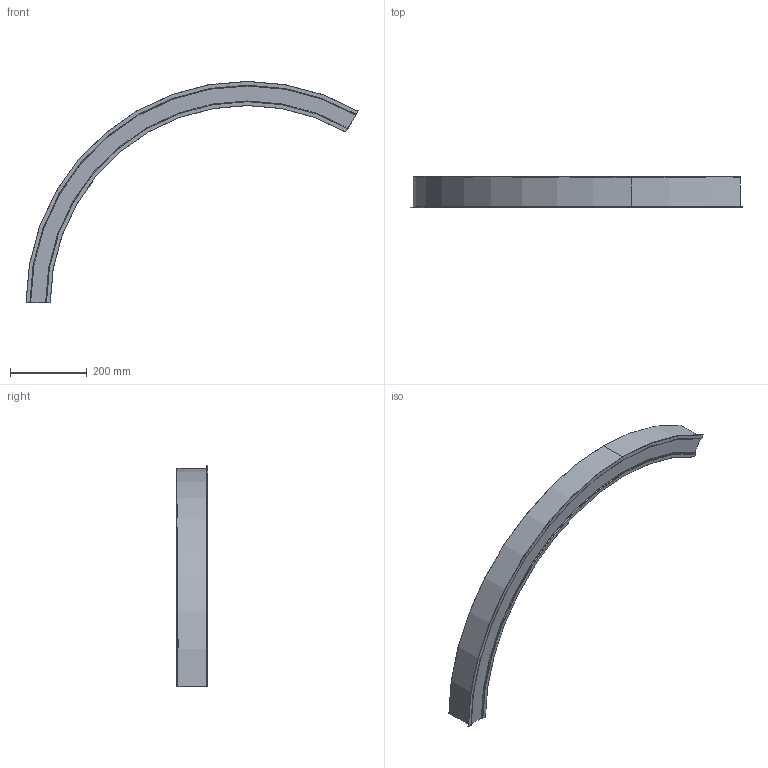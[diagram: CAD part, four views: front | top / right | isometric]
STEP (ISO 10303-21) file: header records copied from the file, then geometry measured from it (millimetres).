
FILE_DESCRIPTION (( 'STEP AP203' ), '1' );
FILE_NAME ('mLight_Swerve 47 Recessed_R543.75 mm 120 deg.STEP', '2020-04-01T10:10:33', ( '' ), ( '' ), 'SwSTEP 2.0', 'SolidWorks 2017', '' );
FILE_SCHEMA (( 'CONFIG_CONTROL_DESIGN' ));
Length unit declared in the file: millimetre
Products named in the file (1): mLight_Swerve 47 Recessed_R543.75 mm 120 deg
Bounding box: 862.88 x 80.63 x 575.25 mm (x, y, z)
Volume: 4135090.8 mm3; surface area: 358034.2 mm2
Topology: 1 solids, 1 shells, 93 faces, 247 edges, 156 vertices
Faces by surface type: torus 56, cylinder 16, plane 12, cone 9
Entity records: 3058 total; most frequent: DIRECTION 623, CARTESIAN_POINT 497, ORIENTED_EDGE 494, AXIS2_PLACEMENT_3D 282, EDGE_CURVE 247, CIRCLE 188, VERTEX_POINT 156, EDGE_LOOP 93
